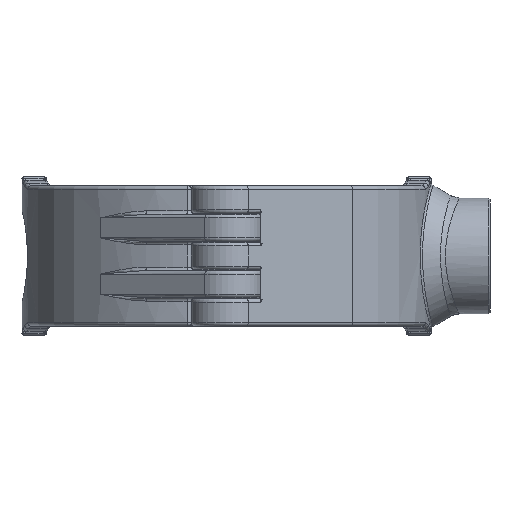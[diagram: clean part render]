
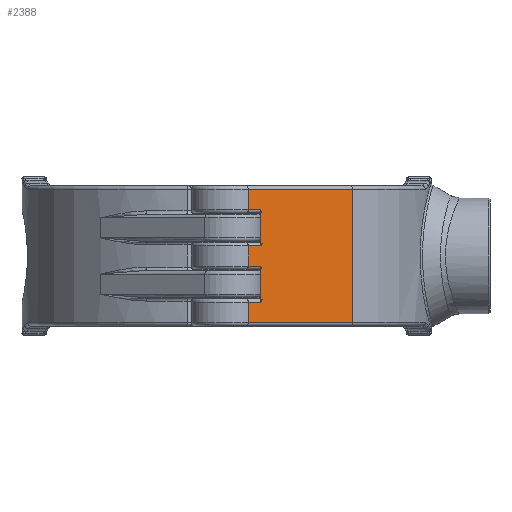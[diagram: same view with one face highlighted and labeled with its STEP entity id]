
A CAD part, front view. The second image highlights one B-rep face of the part: STEP entity #2388.
In plain terms, the highlighted planar face has unit normal (0.616, -0.788, 0).
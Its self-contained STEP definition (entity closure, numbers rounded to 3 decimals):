
#2388=ADVANCED_FACE('',(#3373),#2883,.F.);
#2883=PLANE('',#13586);
#3373=FACE_OUTER_BOUND('',#4244,.T.);
#4244=EDGE_LOOP('',(#7101,#7102,#7103,#7104,#7105,#7106,#7107,#7108,#7109,
#7110,#7111,#7112));
#7101=ORIENTED_EDGE('',*,*,#10926,.F.);
#7102=ORIENTED_EDGE('',*,*,#10927,.T.);
#7103=ORIENTED_EDGE('',*,*,#10818,.T.);
#7104=ORIENTED_EDGE('',*,*,#10928,.T.);
#7105=ORIENTED_EDGE('',*,*,#10929,.T.);
#7106=ORIENTED_EDGE('',*,*,#10930,.T.);
#7107=ORIENTED_EDGE('',*,*,#10924,.T.);
#7108=ORIENTED_EDGE('',*,*,#10931,.T.);
#7109=ORIENTED_EDGE('',*,*,#10932,.T.);
#7110=ORIENTED_EDGE('',*,*,#10933,.T.);
#7111=ORIENTED_EDGE('',*,*,#10814,.T.);
#7112=ORIENTED_EDGE('',*,*,#10934,.T.);
#9357=VERTEX_POINT('',#24224);
#9358=VERTEX_POINT('',#24226);
#9361=VERTEX_POINT('',#24235);
#9362=VERTEX_POINT('',#24236);
#9464=VERTEX_POINT('',#24983);
#9465=VERTEX_POINT('',#24985);
#9466=VERTEX_POINT('',#24989);
#9467=VERTEX_POINT('',#24990);
#9468=VERTEX_POINT('',#24993);
#9469=VERTEX_POINT('',#24995);
#9470=VERTEX_POINT('',#24998);
#9471=VERTEX_POINT('',#25000);
#10814=EDGE_CURVE('',#9358,#9357,#11967,.T.);
#10818=EDGE_CURVE('',#9361,#9362,#11968,.T.);
#10924=EDGE_CURVE('',#9465,#9464,#11990,.T.);
#10926=EDGE_CURVE('',#9466,#9467,#11991,.T.);
#10927=EDGE_CURVE('',#9466,#9361,#11992,.T.);
#10928=EDGE_CURVE('',#9362,#9468,#11993,.T.);
#10929=EDGE_CURVE('',#9468,#9469,#11994,.T.);
#10930=EDGE_CURVE('',#9469,#9465,#11995,.T.);
#10931=EDGE_CURVE('',#9464,#9470,#11996,.T.);
#10932=EDGE_CURVE('',#9470,#9471,#11997,.T.);
#10933=EDGE_CURVE('',#9471,#9358,#11998,.T.);
#10934=EDGE_CURVE('',#9357,#9467,#11999,.T.);
#11967=LINE('',#24225,#12462);
#11968=LINE('',#24234,#12463);
#11990=LINE('',#24984,#12485);
#11991=LINE('',#24988,#12486);
#11992=LINE('',#24991,#12487);
#11993=LINE('',#24992,#12488);
#11994=LINE('',#24994,#12489);
#11995=LINE('',#24996,#12490);
#11996=LINE('',#24997,#12491);
#11997=LINE('',#24999,#12492);
#11998=LINE('',#25001,#12493);
#11999=LINE('',#25002,#12494);
#12462=VECTOR('',#16324,1.);
#12463=VECTOR('',#16335,1.);
#12485=VECTOR('',#16433,1.);
#12486=VECTOR('',#16438,1.);
#12487=VECTOR('',#16439,1.);
#12488=VECTOR('',#16440,1.);
#12489=VECTOR('',#16441,1.);
#12490=VECTOR('',#16442,1.);
#12491=VECTOR('',#16443,1.);
#12492=VECTOR('',#16444,1.);
#12493=VECTOR('',#16445,1.);
#12494=VECTOR('',#16446,1.);
#13586=AXIS2_PLACEMENT_3D('',#25003,#16447,#16448);
#16324=DIRECTION('',(0.,0.,-1.));
#16335=DIRECTION('',(0.,0.,-1.));
#16433=DIRECTION('',(0.,0.,-1.));
#16438=DIRECTION('',(0.,0.,-1.));
#16439=DIRECTION('',(-0.788,-0.616,0.));
#16440=DIRECTION('',(0.788,0.616,0.));
#16441=DIRECTION('',(0.,0.,-1.));
#16442=DIRECTION('',(-0.788,-0.616,0.));
#16443=DIRECTION('',(0.788,0.616,0.));
#16444=DIRECTION('',(0.,0.,-1.));
#16445=DIRECTION('',(-0.788,-0.616,0.));
#16446=DIRECTION('',(0.788,0.616,0.));
#16447=DIRECTION('',(-0.616,0.788,0.));
#16448=DIRECTION('',(-0.788,-0.616,0.));
#24224=CARTESIAN_POINT('',(-1.34,2.372,-19.));
#24225=CARTESIAN_POINT('',(-1.34,2.372,20.));
#24226=CARTESIAN_POINT('',(-1.34,2.372,-13.15));
#24234=CARTESIAN_POINT('',(-1.34,2.372,20.));
#24235=CARTESIAN_POINT('',(-1.34,2.372,19.));
#24236=CARTESIAN_POINT('',(-1.34,2.372,13.15));
#24983=CARTESIAN_POINT('',(-1.34,2.372,-2.85));
#24984=CARTESIAN_POINT('',(-1.34,2.372,20.));
#24985=CARTESIAN_POINT('',(-1.34,2.372,2.85));
#24988=CARTESIAN_POINT('',(28.381,25.613,20.));
#24989=CARTESIAN_POINT('',(28.381,25.613,19.));
#24990=CARTESIAN_POINT('',(28.381,25.613,-19.));
#24991=CARTESIAN_POINT('',(-1.34,2.372,19.));
#24992=CARTESIAN_POINT('',(2.27,5.195,13.15));
#24993=CARTESIAN_POINT('',(2.27,5.195,13.15));
#24994=CARTESIAN_POINT('',(2.27,5.195,3.85));
#24995=CARTESIAN_POINT('',(2.27,5.195,2.85));
#24996=CARTESIAN_POINT('',(28.381,25.613,2.85));
#24997=CARTESIAN_POINT('',(28.381,25.613,-2.85));
#24998=CARTESIAN_POINT('',(2.27,5.195,-2.85));
#24999=CARTESIAN_POINT('',(2.27,5.195,-12.15));
#25000=CARTESIAN_POINT('',(2.27,5.195,-13.15));
#25001=CARTESIAN_POINT('',(-1.34,2.372,-13.15));
#25002=CARTESIAN_POINT('',(28.381,25.613,-19.));
#25003=CARTESIAN_POINT('',(28.381,25.613,20.));
